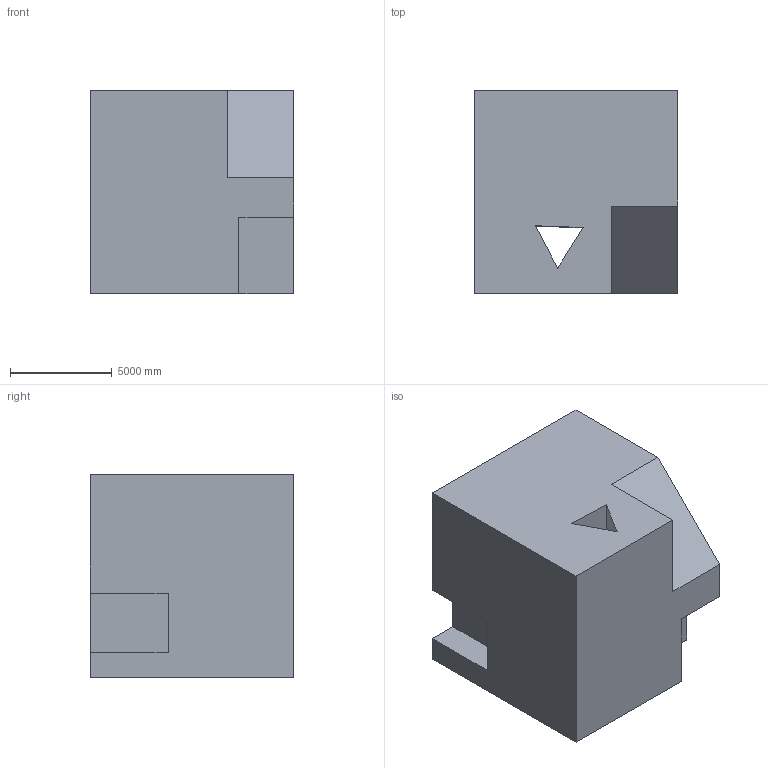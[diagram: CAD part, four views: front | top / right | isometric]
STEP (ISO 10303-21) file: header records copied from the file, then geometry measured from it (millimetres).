
FILE_DESCRIPTION (( 'STEP AP203' ), '1' );
FILE_NAME ('390.STEP', '2022-07-29T11:05:56', ( 'user' ), ( '' ), 'SwSTEP 2.0', 'SolidWorks 2021', '' );
FILE_SCHEMA (( 'CONFIG_CONTROL_DESIGN' ));
Length unit declared in the file: centimetre
Products named in the file (1): 390
Bounding box: 10000 x 10000 x 10000 mm (x, y, z)
Volume: 906597904577.4 mm3; surface area: 668627384 mm2
Topology: 1 solids, 1 shells, 18 faces, 48 edges, 32 vertices
Faces by surface type: plane 18
Entity records: 633 total; most frequent: CARTESIAN_POINT 99, ORIENTED_EDGE 96, DIRECTION 86, VECTOR 48, LINE 48, EDGE_CURVE 48, VERTEX_POINT 32, EDGE_LOOP 20
